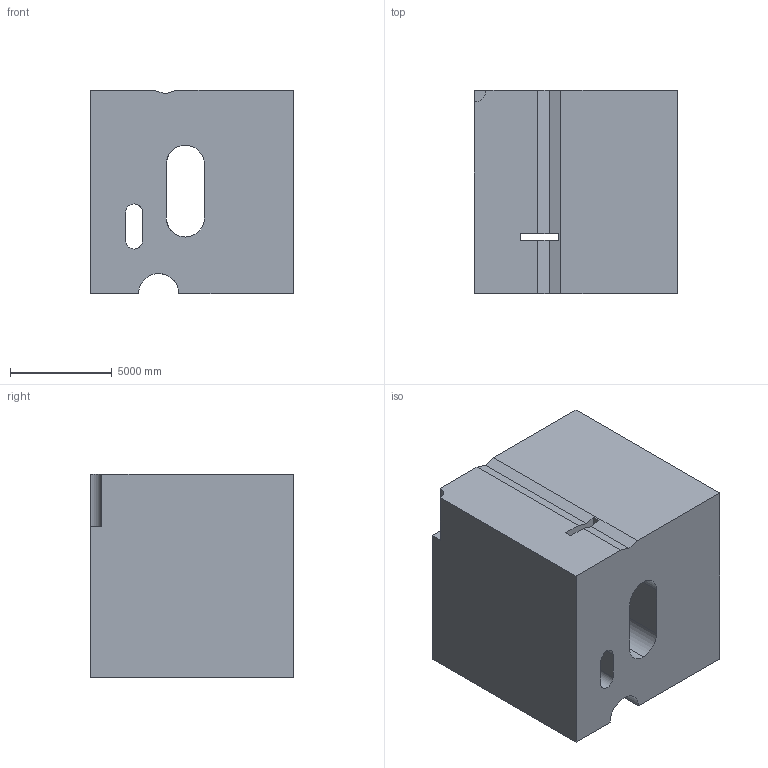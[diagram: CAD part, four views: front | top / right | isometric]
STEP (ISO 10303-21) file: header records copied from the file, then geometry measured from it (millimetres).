
FILE_DESCRIPTION (( 'STEP AP203' ), '1' );
FILE_NAME ('152.STEP', '2022-09-06T13:25:50', ( 'user' ), ( '' ), 'SwSTEP 2.0', 'SolidWorks 2021', '' );
FILE_SCHEMA (( 'CONFIG_CONTROL_DESIGN' ));
Length unit declared in the file: centimetre
Products named in the file (1): 152
Bounding box: 10000 x 10000 x 10000 mm (x, y, z)
Volume: 883477684890.2 mm3; surface area: 785946816.5 mm2
Topology: 1 solids, 1 shells, 34 faces, 114 edges, 76 vertices
Faces by surface type: plane 24, cylinder 10
Entity records: 1345 total; most frequent: ORIENTED_EDGE 228, CARTESIAN_POINT 225, DIRECTION 214, EDGE_CURVE 114, VECTOR 84, LINE 84, VERTEX_POINT 76, AXIS2_PLACEMENT_3D 65
